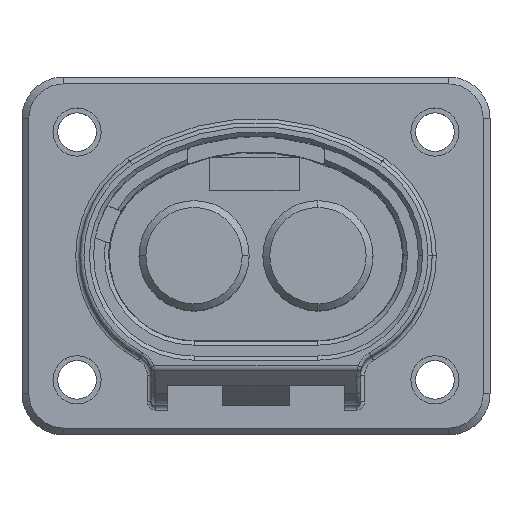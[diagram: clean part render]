
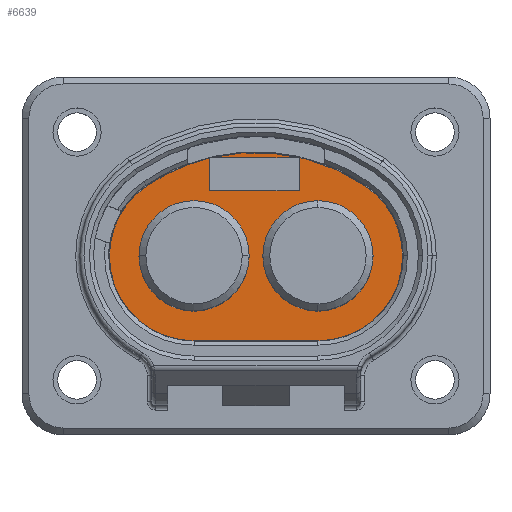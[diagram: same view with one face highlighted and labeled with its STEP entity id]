
A CAD part, top view. The second image highlights one B-rep face of the part: STEP entity #6639.
In plain terms, the highlighted planar face has unit normal (0, 0, 1).
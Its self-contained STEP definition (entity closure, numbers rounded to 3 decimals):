
#1=DIRECTION('',(0.,1.,0.));
#2=VECTOR('',#1,2.368);
#3=CARTESIAN_POINT('',(-6.511,5.257,-9.8));
#4=LINE('',#3,#2);
#13=CARTESIAN_POINT('',(-3.135,-6.116,-9.8));
#14=DIRECTION('',(0.,0.,-1.));
#15=DIRECTION('',(-0.092,0.996,0.));
#16=AXIS2_PLACEMENT_3D('',#13,#14,#15);
#18=CARTESIAN_POINT('',(-3.135,-6.116,-9.8));
#19=DIRECTION('',(0.,0.,1.));
#20=DIRECTION('',(0.563,0.827,0.));
#21=AXIS2_PLACEMENT_3D('',#18,#19,#20);
#23=CARTESIAN_POINT('',(1.365,0.499,-9.8));
#24=DIRECTION('',(0.,0.,1.));
#25=DIRECTION('',(1.,0.,0.));
#26=AXIS2_PLACEMENT_3D('',#23,#24,#25);
#28=CARTESIAN_POINT('',(1.365,0.499,-9.8));
#29=DIRECTION('',(0.,0.,1.));
#30=DIRECTION('',(0.,-1.,0.));
#31=AXIS2_PLACEMENT_3D('',#28,#29,#30);
#33=DIRECTION('',(1.,0.,0.));
#34=VECTOR('',#33,9.);
#35=CARTESIAN_POINT('',(-7.635,-5.651,-9.8));
#36=LINE('',#35,#34);
#37=CARTESIAN_POINT('',(-7.635,0.499,-9.8));
#38=DIRECTION('',(0.,0.,1.));
#39=DIRECTION('',(-1.,0.,0.));
#40=AXIS2_PLACEMENT_3D('',#37,#38,#39);
#42=CARTESIAN_POINT('',(-7.635,0.499,-9.8));
#43=DIRECTION('',(0.,0.,1.));
#44=DIRECTION('',(-0.563,0.827,0.));
#45=AXIS2_PLACEMENT_3D('',#42,#43,#44);
#47=CARTESIAN_POINT('',(-3.135,-6.116,-9.8));
#48=DIRECTION('',(0.,0.,1.));
#49=DIRECTION('',(-0.239,0.971,0.));
#50=AXIS2_PLACEMENT_3D('',#47,#48,#49);
#52=CARTESIAN_POINT('',(1.365,0.499,-9.8));
#53=DIRECTION('',(0.,0.,-1.));
#54=DIRECTION('',(-1.,0.,0.));
#55=AXIS2_PLACEMENT_3D('',#52,#53,#54);
#57=CARTESIAN_POINT('',(1.365,0.499,-9.8));
#58=DIRECTION('',(0.,0.,-1.));
#59=DIRECTION('',(1.,0.,0.));
#60=AXIS2_PLACEMENT_3D('',#57,#58,#59);
#62=CARTESIAN_POINT('',(-7.635,0.499,-9.8));
#63=DIRECTION('',(0.,0.,-1.));
#64=DIRECTION('',(-1.,0.,0.));
#65=AXIS2_PLACEMENT_3D('',#62,#63,#64);
#67=CARTESIAN_POINT('',(-7.635,0.499,-9.8));
#68=DIRECTION('',(0.,0.,-1.));
#69=DIRECTION('',(1.,0.,0.));
#70=AXIS2_PLACEMENT_3D('',#67,#68,#69);
#79=DIRECTION('',(1.,0.,0.));
#80=VECTOR('',#79,1.866);
#81=CARTESIAN_POINT('',(-1.866,7.626,-9.8));
#82=LINE('',#81,#80);
#83=DIRECTION('',(1.,0.,0.));
#84=VECTOR('',#83,2.106);
#85=CARTESIAN_POINT('',(-6.511,7.626,-9.8));
#86=LINE('',#85,#84);
#100=DIRECTION('',(0.,-1.,0.));
#101=VECTOR('',#100,2.368);
#102=CARTESIAN_POINT('',(0.,7.626,-9.8));
#103=LINE('',#102,#101);
#108=DIRECTION('',(-1.,0.,0.));
#109=VECTOR('',#108,6.511);
#110=CARTESIAN_POINT('',(0.,5.257,-9.8));
#111=LINE('',#110,#109);
#6336=CARTESIAN_POINT('',(-11.095,5.584,-9.8));
#6337=VERTEX_POINT('',#6336);
#6338=CARTESIAN_POINT('',(-13.785,0.499,-9.8));
#6339=VERTEX_POINT('',#6338);
#6340=CARTESIAN_POINT('',(-7.635,-5.651,-9.8));
#6341=VERTEX_POINT('',#6340);
#6348=CARTESIAN_POINT('',(4.824,5.584,-9.8));
#6349=VERTEX_POINT('',#6348);
#6350=CARTESIAN_POINT('',(-6.511,7.626,-9.8));
#6351=VERTEX_POINT('',#6350);
#6447=CARTESIAN_POINT('',(7.515,0.499,-9.8));
#6448=VERTEX_POINT('',#6447);
#6449=CARTESIAN_POINT('',(1.365,-5.651,
-9.8));
#6450=VERTEX_POINT('',#6449);
#6451=CARTESIAN_POINT('',(-1.866,7.626,-9.8));
#6452=CARTESIAN_POINT('',(0.,7.626,-9.8));
#6453=VERTEX_POINT('',#6451);
#6454=VERTEX_POINT('',#6452);
#6455=CARTESIAN_POINT('',(-4.405,7.626,-9.8));
#6456=VERTEX_POINT('',#6455);
#6457=CARTESIAN_POINT('',(-6.511,5.257,-9.8));
#6458=VERTEX_POINT('',#6457);
#6459=CARTESIAN_POINT('',(0.,5.257,-9.8));
#6460=VERTEX_POINT('',#6459);
#6461=CARTESIAN_POINT('',(-2.635,0.499,
-9.8));
#6462=CARTESIAN_POINT('',(5.365,0.499,
-9.8));
#6463=VERTEX_POINT('',#6461);
#6464=VERTEX_POINT('',#6462);
#6465=CARTESIAN_POINT('',(-11.635,0.499,
-9.8));
#6466=CARTESIAN_POINT('',(-3.635,0.499,
-9.8));
#6467=VERTEX_POINT('',#6465);
#6468=VERTEX_POINT('',#6466);
#6595=CARTESIAN_POINT('',(-3.135,1.193,-9.8));
#6596=DIRECTION('',(0.,0.,1.));
#6597=DIRECTION('',(1.,0.,0.));
#6598=AXIS2_PLACEMENT_3D('',#6595,#6596,#6597);
#6599=PLANE('',#6598);
#6601=ORIENTED_EDGE('',*,*,#6600,.F.);
#6603=ORIENTED_EDGE('',*,*,#6602,.F.);
#6605=ORIENTED_EDGE('',*,*,#6604,.F.);
#6607=ORIENTED_EDGE('',*,*,#6606,.F.);
#6609=ORIENTED_EDGE('',*,*,#6608,.F.);
#6611=ORIENTED_EDGE('',*,*,#6610,.F.);
#6613=ORIENTED_EDGE('',*,*,#6612,.F.);
#6615=ORIENTED_EDGE('',*,*,#6614,.F.);
#6617=ORIENTED_EDGE('',*,*,#6616,.F.);
#6619=ORIENTED_EDGE('',*,*,#6618,.F.);
#6620=ORIENTED_EDGE('',*,*,#6584,.F.);
#6622=ORIENTED_EDGE('',*,*,#6621,.F.);
#6624=ORIENTED_EDGE('',*,*,#6623,.F.);
#6625=EDGE_LOOP('',(#6601,#6603,#6605,#6607,#6609,#6611,#6613,#6615,#6617,#6619,
#6620,#6622,#6624));
#6626=FACE_OUTER_BOUND('',#6625,.F.);
#6628=ORIENTED_EDGE('',*,*,#6627,.F.);
#6630=ORIENTED_EDGE('',*,*,#6629,.F.);
#6631=EDGE_LOOP('',(#6628,#6630));
#6632=FACE_BOUND('',#6631,.F.);
#6634=ORIENTED_EDGE('',*,*,#6633,.F.);
#6636=ORIENTED_EDGE('',*,*,#6635,.F.);
#6637=EDGE_LOOP('',(#6634,#6636));
#6638=FACE_BOUND('',#6637,.F.);
#6639=ADVANCED_FACE('',(#6626,#6632,#6638),#6599,.T.);
#17=CIRCLE('',#16,13.8);
#22=CIRCLE('',#21,14.15);
#27=CIRCLE('',#26,6.15);
#32=CIRCLE('',#31,6.15);
#41=CIRCLE('',#40,6.15);
#46=CIRCLE('',#45,6.15);
#51=CIRCLE('',#50,14.15);
#56=CIRCLE('',#55,4.);
#61=CIRCLE('',#60,4.);
#66=CIRCLE('',#65,4.);
#71=CIRCLE('',#70,4.);
#6584=EDGE_CURVE('',#6458,#6351,#4,.T.);
#6600=EDGE_CURVE('',#6453,#6454,#82,.T.);
#6602=EDGE_CURVE('',#6456,#6453,#17,.T.);
#6604=EDGE_CURVE('',#6351,#6456,#86,.T.);
#6606=EDGE_CURVE('',#6349,#6351,#22,.T.);
#6608=EDGE_CURVE('',#6448,#6349,#27,.T.);
#6610=EDGE_CURVE('',#6450,#6448,#32,.T.);
#6612=EDGE_CURVE('',#6341,#6450,#36,.T.);
#6614=EDGE_CURVE('',#6339,#6341,#41,.T.);
#6616=EDGE_CURVE('',#6337,#6339,#46,.T.);
#6618=EDGE_CURVE('',#6351,#6337,#51,.T.);
#6621=EDGE_CURVE('',#6460,#6458,#111,.T.);
#6623=EDGE_CURVE('',#6454,#6460,#103,.T.);
#6627=EDGE_CURVE('',#6463,#6464,#56,.T.);
#6629=EDGE_CURVE('',#6464,#6463,#61,.T.);
#6633=EDGE_CURVE('',#6467,#6468,#66,.T.);
#6635=EDGE_CURVE('',#6468,#6467,#71,.T.);
